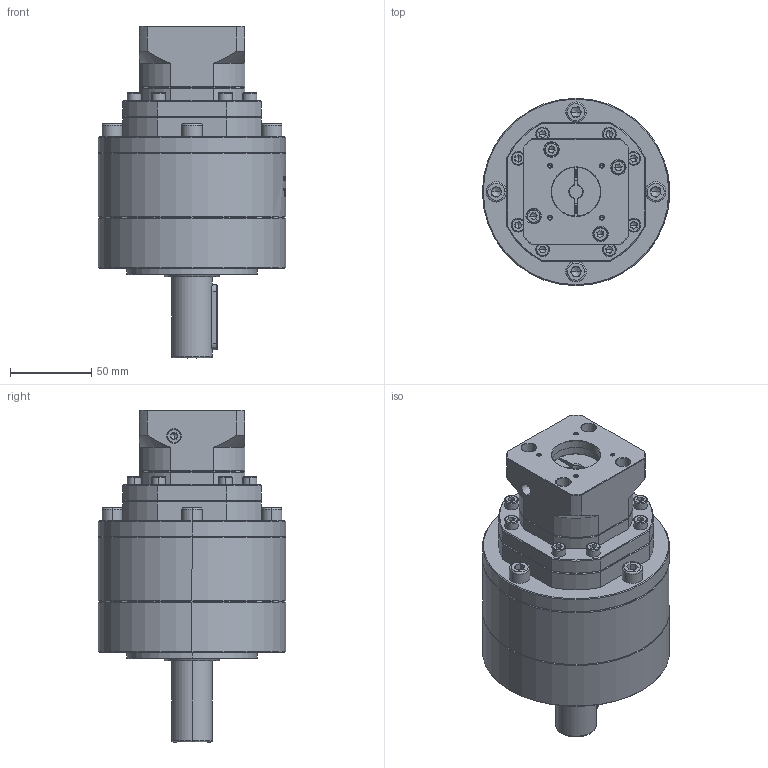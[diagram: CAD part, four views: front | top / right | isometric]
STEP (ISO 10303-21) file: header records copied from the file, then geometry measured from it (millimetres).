
FILE_DESCRIPTION (( 'STEP AP214' ), '1' );
FILE_NAME ('ZE120A-D25-L3-8-30-45-M3.step', '2023-03-09T15:32:59', ( '' ), ( 'Microsoft' ), 'SwSTEP 2.0', 'SolidWorks 2016', '' );
FILE_SCHEMA (( 'AUTOMOTIVE_DESIGN' ));
Length unit declared in the file: millimetre
Products named in the file (1): ZE120A-D25-L3-8-30-45-M3
Bounding box: 115 x 115 x 204 mm (x, y, z)
Volume: 1158245.8 mm3; surface area: 110846.5 mm2
Topology: 7 solids, 7 shells, 2165 faces, 5723 edges, 3660 vertices
Faces by surface type: plane 981, cylinder 517, bspline 349, cone 296, torus 22
Entity records: 118776 total; most frequent: CARTESIAN_POINT 45867, ORIENTED_EDGE 11322, DIRECTION 8734, EDGE_CURVE 5661, VERTEX_POINT 3660, LINE 3048, VECTOR 3048, AXIS2_PLACEMENT_3D 2843
